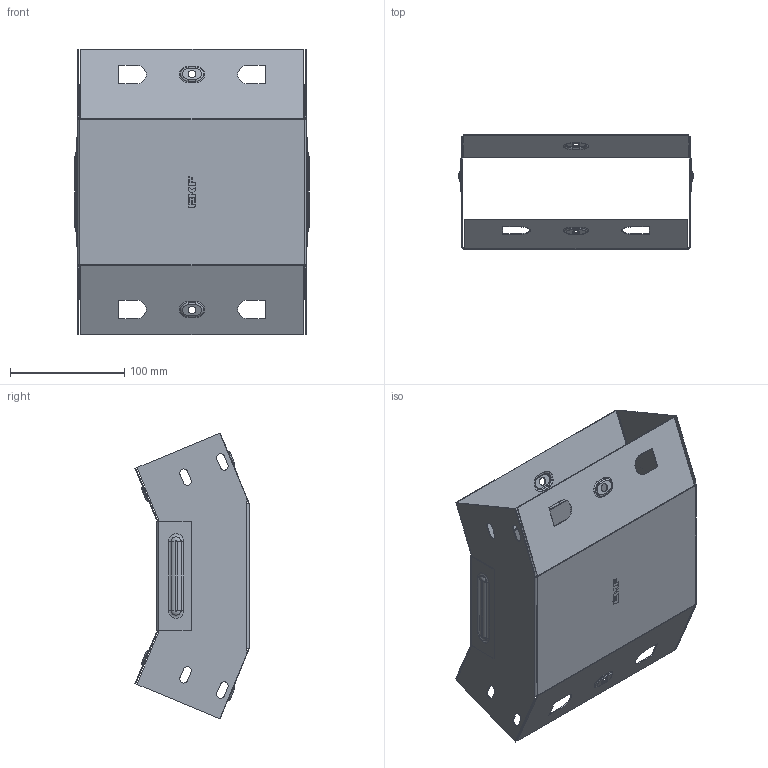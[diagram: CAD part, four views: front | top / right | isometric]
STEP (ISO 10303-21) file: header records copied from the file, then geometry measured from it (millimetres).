
FILE_DESCRIPTION (( 'STEP AP214' ), '1' );
FILE_NAME ('vi4580200_捘.STEP', '2019-06-10T08:31:41', ( '砐錪賧瘔蠈錪 Windows' ), ( '' ), 'SwSTEP 2.0', 'SolidWorks 2018', '' );
FILE_SCHEMA (( 'AUTOMOTIVE_DESIGN' ));
Length unit declared in the file: millimetre
Products named in the file (1): vi4580200_捘
Bounding box: 205.6 x 99.93 x 250.25 mm (x, y, z)
Volume: 103645.6 mm3; surface area: 261706.2 mm2
Topology: 2 solids, 2 shells, 452 faces, 1164 edges, 744 vertices
Faces by surface type: plane 242, cylinder 128, torus 64, bspline 18
Entity records: 14672 total; most frequent: CARTESIAN_POINT 3380, DIRECTION 2350, ORIENTED_EDGE 2328, EDGE_CURVE 1164, AXIS2_PLACEMENT_3D 787, VECTOR 776, LINE 776, VERTEX_POINT 744
